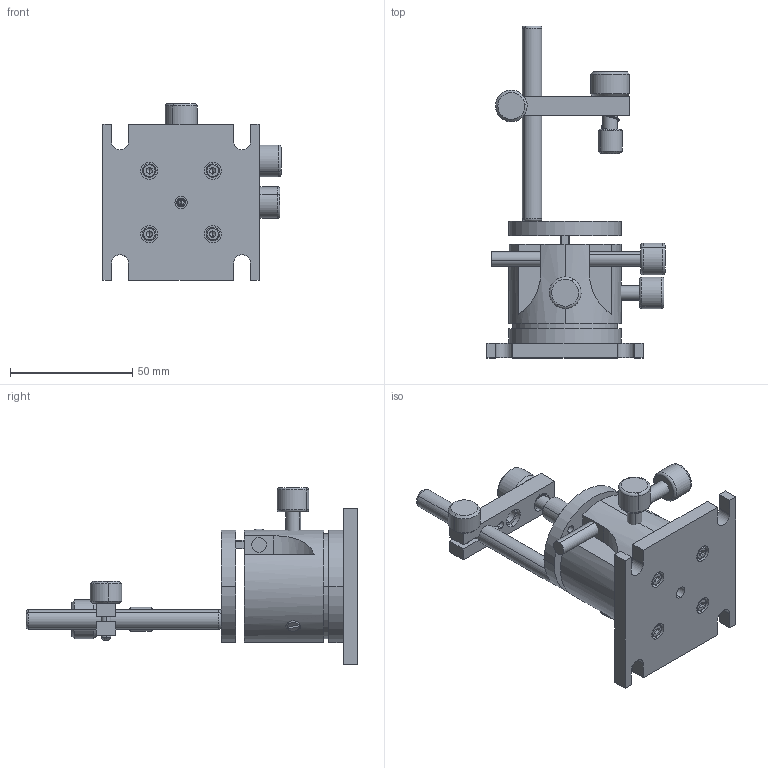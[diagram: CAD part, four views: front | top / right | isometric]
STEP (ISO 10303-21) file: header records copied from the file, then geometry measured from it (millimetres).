
FILE_DESCRIPTION (( 'STEP AP203' ), '1' );
FILE_NAME ('7MMR246三维调整棱镜架.STEP', '2019-10-12T08:03:05', ( '' ), ( '' ), 'SwSTEP 2.0', 'SolidWorks 2014', '' );
FILE_SCHEMA (( 'CONFIG_CONTROL_DESIGN' ));
Length unit declared in the file: millimetre
Products named in the file (1): 7MMR246三维调整棱镜架
Bounding box: 73 x 136 x 72.5 mm (x, y, z)
Surface area: 34189.3 mm2 (no closed solid volume)
Topology: 0 solids, 34 shells, 281 faces, 764 edges, 503 vertices
Faces by surface type: plane 118, cylinder 99, cone 32, torus 28, sphere 2, bspline 2
Entity records: 9799 total; most frequent: CARTESIAN_POINT 2511, DIRECTION 1648, ORIENTED_EDGE 1295, EDGE_CURVE 747, AXIS2_PLACEMENT_3D 641, VERTEX_POINT 500, VECTOR 366, LINE 366
